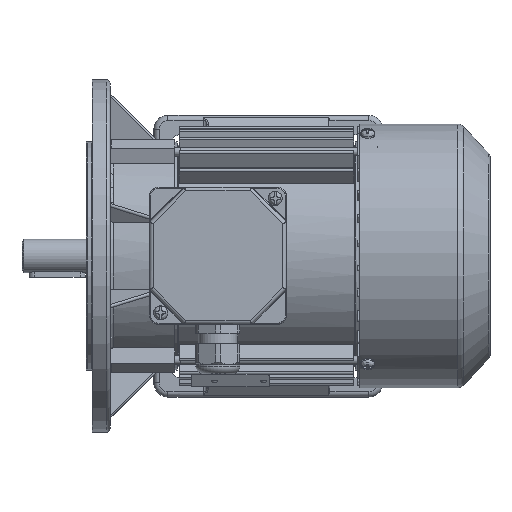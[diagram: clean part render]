
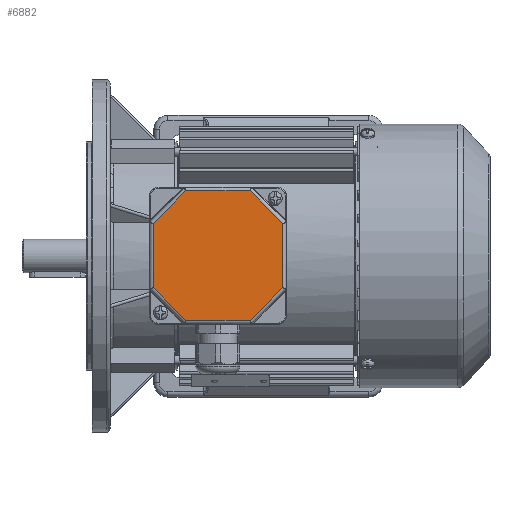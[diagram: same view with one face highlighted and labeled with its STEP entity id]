
A CAD part, top view. The second image highlights one B-rep face of the part: STEP entity #6882.
In plain terms, the highlighted planar face has unit normal (0, 0, 1).
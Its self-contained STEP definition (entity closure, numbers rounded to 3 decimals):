
#6882 = ADVANCED_FACE( '', ( #14246 ), #14247, .T. );
#14246 = FACE_OUTER_BOUND( '', #33117, .T. );
#14247 = PLANE( '', #33118 );
#33117 = EDGE_LOOP( '', ( #55453, #55454, #55455, #55456, #55457, #55458, #55459, #55460 ) );
#33118 = AXIS2_PLACEMENT_3D( '', #55461, #55462, #55463 );
#55453 = ORIENTED_EDGE( '', *, *, #66547, .T. );
#55454 = ORIENTED_EDGE( '', *, *, #68664, .T. );
#55455 = ORIENTED_EDGE( '', *, *, #68621, .T. );
#55456 = ORIENTED_EDGE( '', *, *, #64726, .T. );
#55457 = ORIENTED_EDGE( '', *, *, #67951, .T. );
#55458 = ORIENTED_EDGE( '', *, *, #65547, .T. );
#55459 = ORIENTED_EDGE( '', *, *, #64215, .T. );
#55460 = ORIENTED_EDGE( '', *, *, #61589, .T. );
#55461 = CARTESIAN_POINT( '', ( -39., 39., 12. ) );
#55462 = DIRECTION( '', ( 0., 0., 1. ) );
#55463 = DIRECTION( '', ( 1., 0., 0. ) );
#61589 = EDGE_CURVE( '', #70850, #70848, #70851, .T. );
#64215 = EDGE_CURVE( '', #73056, #70850, #75418, .F. );
#64726 = EDGE_CURVE( '', #73373, #76197, #76198, .T. );
#65547 = EDGE_CURVE( '', #77480, #73056, #77481, .T. );
#66547 = EDGE_CURVE( '', #70848, #78927, #78929, .F. );
#67951 = EDGE_CURVE( '', #76197, #77480, #80769, .F. );
#68621 = EDGE_CURVE( '', #75300, #73373, #81589, .F. );
#68664 = EDGE_CURVE( '', #78927, #75300, #81642, .T. );
#70848 = VERTEX_POINT( '', #85127 );
#70850 = VERTEX_POINT( '', #85129 );
#70851 = LINE( '', #85130, #85131 );
#73056 = VERTEX_POINT( '', #88816 );
#73373 = VERTEX_POINT( '', #89387 );
#75300 = VERTEX_POINT( '', #93676 );
#75418 = LINE( '', #93874, #93875 );
#76197 = VERTEX_POINT( '', #96278 );
#76198 = LINE( '', #96279, #96280 );
#77480 = VERTEX_POINT( '', #101478 );
#77481 = LINE( '', #101479, #101480 );
#78927 = VERTEX_POINT( '', #105073 );
#78929 = LINE( '', #105075, #105076 );
#80769 = LINE( '', #109726, #109727 );
#81589 = LINE( '', #111537, #111538 );
#81642 = LINE( '', #111670, #111671 );
#85127 = CARTESIAN_POINT( '', ( 36.825, -18.255, 12. ) );
#85129 = CARTESIAN_POINT( '', ( 18.255, -36.825, 12. ) );
#85130 = CARTESIAN_POINT( '', ( 37.401, -17.679, 12. ) );
#85131 = VECTOR( '', #114774, 1000. );
#88816 = CARTESIAN_POINT( '', ( -18.255, -36.825, 12. ) );
#89387 = CARTESIAN_POINT( '', ( -18.255, 36.825, 12. ) );
#93676 = CARTESIAN_POINT( '', ( 18.255, 36.825, 12. ) );
#93874 = CARTESIAN_POINT( '', ( 19.069, -36.825, 12. ) );
#93875 = VECTOR( '', #118435, 1000. );
#96278 = CARTESIAN_POINT( '', ( -36.825, 18.255, 12. ) );
#96279 = CARTESIAN_POINT( '', ( -37.401, 17.679, 12. ) );
#96280 = VECTOR( '', #119020, 1000. );
#101478 = CARTESIAN_POINT( '', ( -36.825, -18.255, 12. ) );
#101479 = CARTESIAN_POINT( '', ( -17.679, -37.401, 12. ) );
#101480 = VECTOR( '', #119920, 1000. );
#105073 = CARTESIAN_POINT( '', ( 36.825, 18.255, 12. ) );
#105075 = CARTESIAN_POINT( '', ( 36.825, 19.069, 12. ) );
#105076 = VECTOR( '', #121073, 1000. );
#109726 = CARTESIAN_POINT( '', ( -36.825, -19.069, 12. ) );
#109727 = VECTOR( '', #122452, 1000. );
#111537 = CARTESIAN_POINT( '', ( -19.069, 36.825, 12. ) );
#111538 = VECTOR( '', #123064, 1000. );
#111670 = CARTESIAN_POINT( '', ( 17.679, 37.401, 12. ) );
#111671 = VECTOR( '', #123093, 1000. );
#114774 = DIRECTION( '', ( 0.707, 0.707, 0. ) );
#118435 = DIRECTION( '', ( -1., 0., 0. ) );
#119020 = DIRECTION( '', ( -0.707, -0.707, 0. ) );
#119920 = DIRECTION( '', ( 0.707, -0.707, 0. ) );
#121073 = DIRECTION( '', ( 0., -1., 0. ) );
#122452 = DIRECTION( '', ( 0., 1., 0. ) );
#123064 = DIRECTION( '', ( 1., 0., 0. ) );
#123093 = DIRECTION( '', ( -0.707, 0.707, 0. ) );
